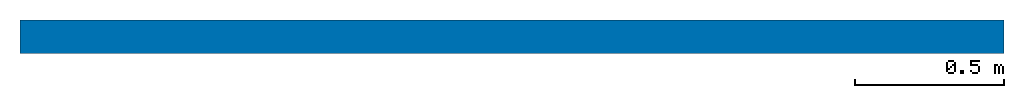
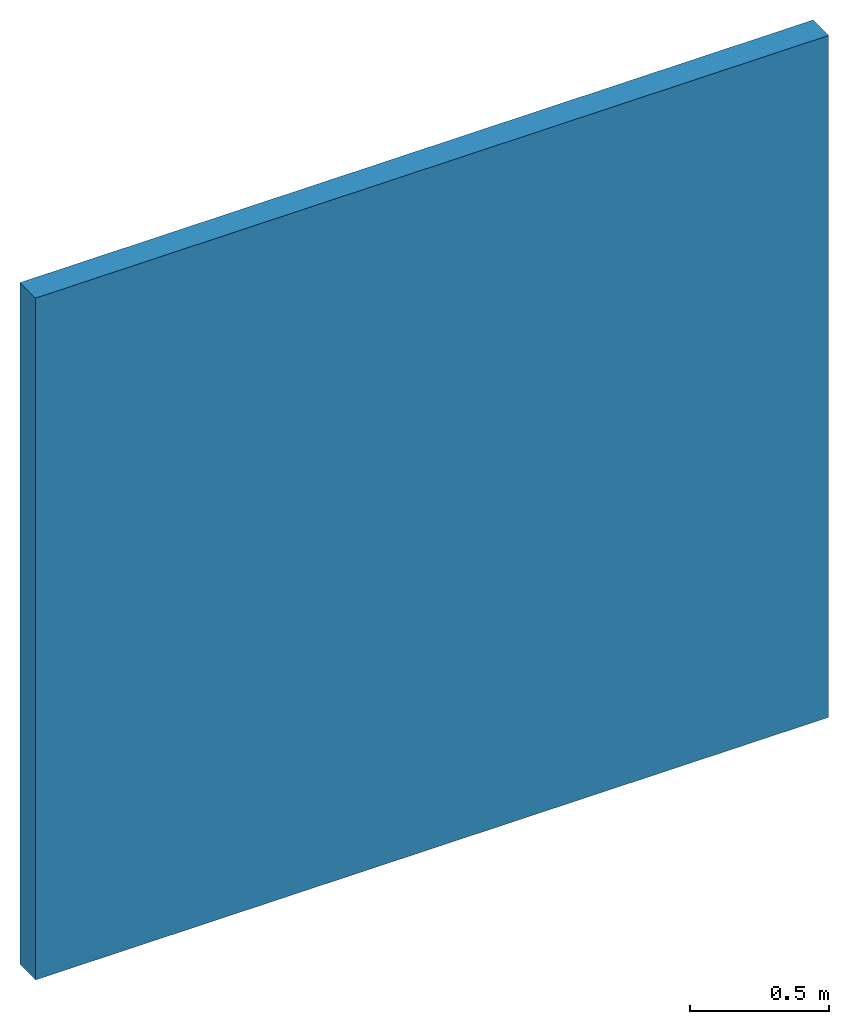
# One storey: 1 wall.
"""IFC2X3 building model written with IfcOpenShell, lengths in millimetres."""

import ifcopenshell
import ifcopenshell.guid

model = None  # the IFC model being written
_history = None  # IfcOwnerHistory: only IFC2X3 demands one
_inside = {}  # id of a spatial element -> (the spatial element, [elements in it])
_under = {}  # id of a project, library or spatial element -> (it, [spatial elements below it])
_declared = {}  # id of a project -> (the project, [libraries it declares])
_typed = {}  # id of a type object -> (the type object, [elements of that type])
_made_of = {}  # id of a material, layer set ... -> (it, [elements and type objects made of it])


def new_model(schema):
    """Start an empty IFC model of exactly this schema.

    Asked for "IFC4X3", IfcOpenShell would pick the latest addendum, in which some entities
    have other attributes; the version numbers below select the first issue.
    IFC2X3 requires an IfcOwnerHistory on every rooted entity: one is made here for all.
    """
    global model, _history
    if schema == "IFC4X3":
        model = ifcopenshell.file(schema_version=(4, 3, 0, 0))
    else:
        model = ifcopenshell.file(schema=schema)
    _inside.clear()
    _under.clear()
    _declared.clear()
    _typed.clear()
    _made_of.clear()
    _history = None
    if model.schema == "IFC2X3":
        org = make("IfcOrganization", Name="unknown")
        user = make(
            "IfcPersonAndOrganization",
            ThePerson=make("IfcPerson", FamilyName="unknown"),
            TheOrganization=org,
        )
        app = make(
            "IfcApplication",
            ApplicationDeveloper=org,
            Version="unknown",
            ApplicationFullName="unknown",
            ApplicationIdentifier="unknown",
        )
        _history = make(
            "IfcOwnerHistory",
            OwningUser=user,
            OwningApplication=app,
            ChangeAction="ADDED",
            CreationDate=0,
        )
    return model


def make(cls, **values):
    """One entity of the class cls with the attributes given. An attribute that is None is left unset."""
    return model.create_entity(
        cls, **{name: value for name, value in values.items() if value is not None}
    )


def entity(cls, *values):
    """Any entity or typed value of the class cls, its attributes in the order of the schema. None: left unset."""
    e = model.create_entity(cls)
    for i, value in enumerate(values):
        if value is not None:
            e[i] = value
    return e


def rooted(cls, **values):
    """An entity with a GlobalId (a new one), such as an element, a storey or a relation."""
    return make(cls, GlobalId=ifcopenshell.guid.new(), OwnerHistory=_history, **values)


def si_unit(unit_type, name, prefix=None):
    """IfcSIUnit, for example si_unit("LENGTHUNIT", "METRE", prefix="MILLI")."""
    return make("IfcSIUnit", UnitType=unit_type, Prefix=prefix, Name=name)


def converted_unit(unit_type, name, factor, base, dimensions=None, offset=None):
    """IfcConversionBasedUnit, such as the inch: factor (a typed value) times the base unit."""
    return make(
        "IfcConversionBasedUnit"
        if offset is None
        else "IfcConversionBasedUnitWithOffset",
        ConversionOffset=offset,
        Dimensions=None
        if dimensions is None
        else entity("IfcDimensionalExponents", *dimensions),
        UnitType=unit_type,
        Name=name,
        ConversionFactor=make(
            "IfcMeasureWithUnit", ValueComponent=factor, UnitComponent=base
        ),
    )


def derived_unit(unit_type, elements):
    """IfcDerivedUnit: a product of units, each with its exponent."""
    return make(
        "IfcDerivedUnit",
        Elements=[
            make("IfcDerivedUnitElement", Unit=unit, Exponent=power)
            for unit, power in elements
        ],
        UnitType=unit_type,
    )


def assignment(units):
    """IfcUnitAssignment: the units of a project."""
    return None if units is None else make("IfcUnitAssignment", Units=units)


def point(xyz):
    """IfcCartesianPoint."""
    return None if xyz is None else make("IfcCartesianPoint", Coordinates=xyz)


def direction(xyz):
    """IfcDirection."""
    return None if xyz is None else make("IfcDirection", DirectionRatios=xyz)


def frame(location, z_axis=None, x_axis=None):
    """IfcAxis2Placement3D, a coordinate frame: its origin and axes. An axis left out is left unset."""
    return make(
        "IfcAxis2Placement3D",
        Location=point(location),
        Axis=direction(z_axis),
        RefDirection=direction(x_axis),
    )


def frame_2d(location, x_axis=None):
    """IfcAxis2Placement2D, a coordinate frame in the plane: its origin and x axis."""
    return make(
        "IfcAxis2Placement2D", Location=point(location), RefDirection=direction(x_axis)
    )


def origin():
    """The frame at (0, 0, 0) with its axes left unset."""
    return frame((0.0, 0.0, 0.0))


def place(relative_to, where):
    """IfcLocalPlacement: puts the frame where relative to a parent placement (None: the world)."""
    return make(
        "IfcLocalPlacement", PlacementRelTo=relative_to, RelativePlacement=where
    )


def context(
    kind, dimensions, precision=None, world=None, true_north=None, identifier=None
):
    """IfcGeometricRepresentationContext, for example the 3D "Model" context."""
    return make(
        "IfcGeometricRepresentationContext",
        ContextIdentifier=identifier,
        ContextType=kind,
        CoordinateSpaceDimension=dimensions,
        Precision=precision,
        WorldCoordinateSystem=world,
        TrueNorth=true_north,
    )


def subcontext(parent, identifier, kind, view, scale=None):
    """IfcGeometricRepresentationSubContext, for example "Body" below "Model"."""
    return make(
        "IfcGeometricRepresentationSubContext",
        ContextIdentifier=identifier,
        ContextType=kind,
        ParentContext=parent,
        TargetScale=scale,
        TargetView=view,
    )


def project(units=None, contexts=None):
    """IfcProject with its units and contexts."""
    return rooted(
        "IfcProject",
        Name="project",
        RepresentationContexts=contexts,
        UnitsInContext=assignment(units),
    )


def spatial(cls, under=None, at=None, **own):
    """A site, building, storey or space (cls), placed at a placement, below another one or the project."""
    s = rooted(cls, ObjectPlacement=at, **own)
    if under is not None:
        _under.setdefault(under.id(), (under, []))[1].append(s)
    return s


def profile(cls, at=None, kind="AREA", **sizes):
    """A parametric profile (cls). Its sizes go by their IFC names, for example OverallWidth=200.0."""
    return make(cls, ProfileType=kind, Position=at, **sizes)


def rectangle(**sizes):
    """IfcRectangleProfileDef."""
    return profile("IfcRectangleProfileDef", **sizes)


def extrude(swept, where, along, depth):
    """IfcExtrudedAreaSolid: the profile swept, set in the frame where, extruded along a direction by depth."""
    return make(
        "IfcExtrudedAreaSolid",
        SweptArea=swept,
        Position=where,
        ExtrudedDirection=direction(along),
        Depth=depth,
    )


def shape(context_of_items, identifier, shape_type, items):
    """IfcShapeRepresentation: the items that make up one representation, for example the "Body"."""
    return make(
        "IfcShapeRepresentation",
        ContextOfItems=context_of_items,
        RepresentationIdentifier=identifier,
        RepresentationType=shape_type,
        Items=items,
    )


def material(Name=None, Category=None):
    """IfcMaterial."""
    return make("IfcMaterial", Name=Name, Category=Category)


def layer(
    of_material, thickness, ventilated=None, Name=None, Category=None, Priority=None
):
    """IfcMaterialLayer: one layer of a wall or slab, of a material (None: an air gap)."""
    return make(
        "IfcMaterialLayer",
        Material=of_material,
        LayerThickness=thickness,
        IsVentilated=ventilated,
        Name=Name,
        Category=Category,
        Priority=Priority,
    )


def layer_set(layers, Name=None):
    """IfcMaterialLayerSet."""
    return make("IfcMaterialLayerSet", MaterialLayers=layers, LayerSetName=Name)


def layer_usage(for_layer_set, set_direction, sense, offset, extent=None):
    """IfcMaterialLayerSetUsage: how a layer set lies in its element."""
    return make(
        "IfcMaterialLayerSetUsage",
        ForLayerSet=for_layer_set,
        LayerSetDirection=set_direction,
        DirectionSense=sense,
        OffsetFromReferenceLine=offset,
        ReferenceExtent=extent,
    )


def made_of(thing, what):
    """Note that an element or type object is made of a material, layer set ...; save() writes the relation."""
    if what is not None:
        _made_of.setdefault(what.id(), (what, []))[1].append(thing)
    return thing


def type_object(cls, material=None, **own):
    """A type object (cls), such as IfcWallType, which elements share."""
    return made_of(rooted(cls, **own), material)


def element(
    cls,
    number,
    at=None,
    inside=None,
    cuts=None,
    type_object=None,
    material=None,
    context=None,
    identifier="Body",
    shape_type=None,
    held_by="IfcProductDefinitionShape",
    body=None,
    shapes=None,
    **own,
):
    """One element of the class cls, such as IfcWall. Its Tag is "e" and its number.

    at: its placement. inside: the storey or other place that contains it. cuts: it is an
    opening in that element (IfcRelVoidsElement). A single representation is given by context,
    identifier, shape_type and body (its items); several are given by shapes. held_by: the class
    of the entity that holds the representations. save() writes the other relations.
    """
    e = rooted(cls, Tag="e%d" % number, ObjectPlacement=at, **own)
    if body is not None:
        shapes = [shape(context, identifier, shape_type, body)]
    if shapes is not None:
        e.Representation = make(held_by, Representations=shapes)
    if inside is not None:
        _inside.setdefault(inside.id(), (inside, []))[1].append(e)
    if cuts is not None:
        rooted(
            "IfcRelVoidsElement", RelatingBuildingElement=cuts, RelatedOpeningElement=e
        )
    if type_object is not None:
        _typed.setdefault(type_object.id(), (type_object, []))[1].append(e)
    return made_of(e, material)


def aggregate(whole, parts):
    """IfcRelAggregates: a whole, such as a stair, and the parts it consists of."""
    return rooted("IfcRelAggregates", RelatingObject=whole, RelatedObjects=parts)


def save(model, path):
    """Write the relations noted so far, then the file.

    IfcRelAggregates (storeys below a building ...), IfcRelContainedInSpatialStructure (elements
    in a storey), IfcRelDefinesByType, IfcRelAssociatesMaterial and IfcRelDeclares: one each for
    every whole, place, type object, material and project.
    """
    for whole, parts in _under.values():
        aggregate(whole, parts)
    for where, things in _inside.values():
        rooted(
            "IfcRelContainedInSpatialStructure",
            RelatedElements=things,
            RelatingStructure=where,
        )
    for kind, things in _typed.values():
        rooted("IfcRelDefinesByType", RelatedObjects=things, RelatingType=kind)
    for what, things in _made_of.values():
        rooted("IfcRelAssociatesMaterial", RelatedObjects=things, RelatingMaterial=what)
    for by, libraries in _declared.values():
        rooted("IfcRelDeclares", RelatingContext=by, RelatedDefinitions=libraries)
    model.write(path)


model = new_model("IFC2X3")

# Units and contexts
model_context = context("Model", 3, precision=0.01, world=origin(), true_north=direction((6.12303176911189e-17, 1.0)))
body_context = subcontext(model_context, "Body", "Model", "MODEL_VIEW")
ifc_project = project(units=[si_unit("LENGTHUNIT", "METRE", prefix="MILLI"), si_unit("AREAUNIT", "SQUARE_METRE"), si_unit("VOLUMEUNIT", "CUBIC_METRE"), converted_unit("PLANEANGLEUNIT", "DEGREE", entity("IfcRatioMeasure", 0.0174532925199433), si_unit("PLANEANGLEUNIT", "RADIAN"), dimensions=[0, 0, 0, 0, 0, 0, 0]), si_unit("MASSUNIT", "GRAM", prefix="KILO"), si_unit("TIMEUNIT", "SECOND"), si_unit("FREQUENCYUNIT", "HERTZ"), si_unit("THERMODYNAMICTEMPERATUREUNIT", "DEGREE_CELSIUS"), derived_unit("THERMALTRANSMITTANCEUNIT", [(si_unit("MASSUNIT", "GRAM", prefix="KILO"), 1), (si_unit("THERMODYNAMICTEMPERATUREUNIT", "KELVIN"), -1), (si_unit("TIMEUNIT", "SECOND"), -3)]), derived_unit("VOLUMETRICFLOWRATEUNIT", [(si_unit("LENGTHUNIT", "METRE"), 3), (si_unit("TIMEUNIT", "SECOND"), -1)]), si_unit("ELECTRICCURRENTUNIT", "AMPERE"), si_unit("ELECTRICVOLTAGEUNIT", "VOLT"), si_unit("POWERUNIT", "WATT"), si_unit("FORCEUNIT", "NEWTON", prefix="KILO"), si_unit("ILLUMINANCEUNIT", "LUX"), si_unit("LUMINOUSFLUXUNIT", "LUMEN"), si_unit("LUMINOUSINTENSITYUNIT", "CANDELA"), derived_unit("USERDEFINED", [(si_unit("MASSUNIT", "GRAM", prefix="KILO"), -1), (si_unit("LENGTHUNIT", "METRE"), -2), (si_unit("TIMEUNIT", "SECOND"), 3), (si_unit("LUMINOUSFLUXUNIT", "LUMEN"), 1)]), derived_unit("LINEARVELOCITYUNIT", [(si_unit("LENGTHUNIT", "METRE"), 1), (si_unit("TIMEUNIT", "SECOND"), -1)]), si_unit("PRESSUREUNIT", "PASCAL"), derived_unit("USERDEFINED", [(si_unit("LENGTHUNIT", "METRE"), -2), (si_unit("MASSUNIT", "GRAM", prefix="KILO"), 1), (si_unit("TIMEUNIT", "SECOND"), -2)])], contexts=[model_context])

# Site, building, storey
site_placement = place(None, origin())
site = spatial("IfcSite", under=ifc_project, at=site_placement, Name="Default", CompositionType="ELEMENT")
building_placement = place(site_placement, origin())
building = spatial("IfcBuilding", under=site, at=building_placement, CompositionType="ELEMENT")
storey_placement = place(building_placement, origin())
storey = spatial("IfcBuildingStorey", under=building, at=storey_placement, Name="Уровень 1", CompositionType="ELEMENT", Elevation=0.0)

# Wall
ifc_material_1 = material(Name="КНАУФ-лист")
ifc_layer_1 = layer(ifc_material_1, 12.5)
ifc_material_2 = material(Name="КНАУФ-профиль+мин.вата 75@600mm")
ifc_layer_2 = layer(ifc_material_2, 75.0)
ifc_material_3 = material(Name="Luft")
ifc_layer_3 = layer(ifc_material_3, 25.0)
ifc_layer_set = layer_set([ifc_layer_1, ifc_layer_2, ifc_layer_3], Name="Базовая стена:Облицовка КНАУФ С625 Применение внутри здания ПС100х50 ПН100х40 шаг 300 ГСП-А 12.5")
ifc_layer_usage = layer_usage(ifc_layer_set, "AXIS2", "NEGATIVE", 56.25)
wall_type = type_object("IfcWallType", Name="Базовая стена:Облицовка КНАУФ С625 Применение внутри здания ПС100х50 ПН100х40 шаг 300 ГСП-А 12.5", PredefinedType="STANDARD", material=ifc_layer_set)
wall_placement = place(storey_placement, frame((1878.27831949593, -939.404885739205, 0.0)))
element("IfcWallStandardCase", 1, at=wall_placement, inside=storey, type_object=wall_type, material=ifc_layer_usage, Name="Базовая стена:Облицовка КНАУФ С625 Применение внутри здания ПС100х50 ПН100х40 шаг 300 ГСП-А 12.5", ObjectType="Базовая стена:Облицовка КНАУФ С625 Применение внутри здания ПС100х50 ПН100х40 шаг 300 ГСП-А 12.5", context=body_context, shape_type="SweptSolid", body=[
    extrude(rectangle(XDim=3300.0, YDim=112.5, at=frame_2d((1650.0, -2.8421709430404e-14), x_axis=(-1.0, 0.0))), origin(), (0.0, 0.0, 1.0), 3000.0),
])

save(model, "model.ifc")
